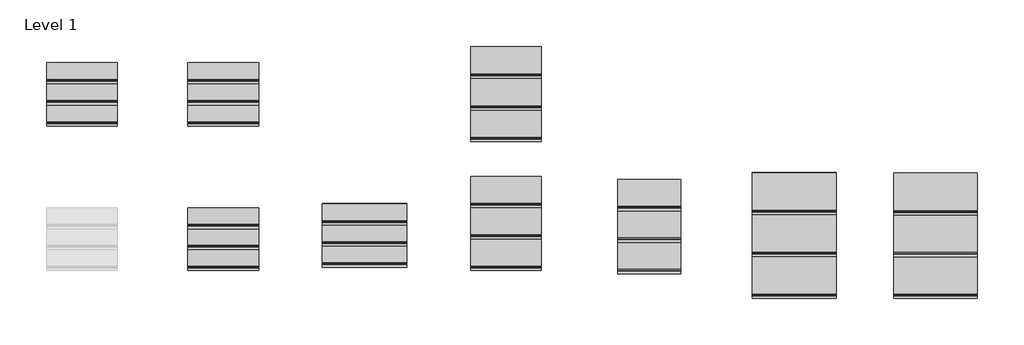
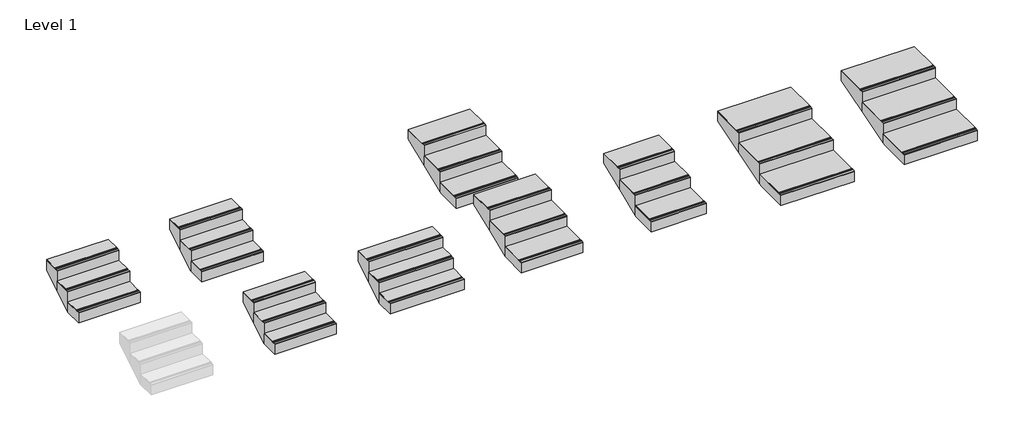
# One storey, part 2 of 2: 9 stair flights.
"""IFC4 building model written with IfcOpenShell, lengths in millimetres."""

import ifcopenshell
import ifcopenshell.guid

model = None  # the IFC model being written
_history = None  # IfcOwnerHistory: only IFC2X3 demands one
_inside = {}  # id of a spatial element -> (the spatial element, [elements in it])
_under = {}  # id of a project, library or spatial element -> (it, [spatial elements below it])
_declared = {}  # id of a project -> (the project, [libraries it declares])
_typed = {}  # id of a type object -> (the type object, [elements of that type])
_made_of = {}  # id of a material, layer set ... -> (it, [elements and type objects made of it])


def new_model(schema):
    """Start an empty IFC model of exactly this schema.

    Asked for "IFC4X3", IfcOpenShell would pick the latest addendum, in which some entities
    have other attributes; the version numbers below select the first issue.
    IFC2X3 requires an IfcOwnerHistory on every rooted entity: one is made here for all.
    """
    global model, _history
    if schema == "IFC4X3":
        model = ifcopenshell.file(schema_version=(4, 3, 0, 0))
    else:
        model = ifcopenshell.file(schema=schema)
    _inside.clear()
    _under.clear()
    _declared.clear()
    _typed.clear()
    _made_of.clear()
    _history = None
    if model.schema == "IFC2X3":
        org = make("IfcOrganization", Name="unknown")
        user = make(
            "IfcPersonAndOrganization",
            ThePerson=make("IfcPerson", FamilyName="unknown"),
            TheOrganization=org,
        )
        app = make(
            "IfcApplication",
            ApplicationDeveloper=org,
            Version="unknown",
            ApplicationFullName="unknown",
            ApplicationIdentifier="unknown",
        )
        _history = make(
            "IfcOwnerHistory",
            OwningUser=user,
            OwningApplication=app,
            ChangeAction="ADDED",
            CreationDate=0,
        )
    return model


def make(cls, **values):
    """One entity of the class cls with the attributes given. An attribute that is None is left unset."""
    return model.create_entity(
        cls, **{name: value for name, value in values.items() if value is not None}
    )


def rooted(cls, **values):
    """An entity with a GlobalId (a new one), such as an element, a storey or a relation."""
    return make(cls, GlobalId=ifcopenshell.guid.new(), OwnerHistory=_history, **values)


def si_unit(unit_type, name, prefix=None):
    """IfcSIUnit, for example si_unit("LENGTHUNIT", "METRE", prefix="MILLI")."""
    return make("IfcSIUnit", UnitType=unit_type, Prefix=prefix, Name=name)


def assignment(units):
    """IfcUnitAssignment: the units of a project."""
    return None if units is None else make("IfcUnitAssignment", Units=units)


def point(xyz):
    """IfcCartesianPoint."""
    return None if xyz is None else make("IfcCartesianPoint", Coordinates=xyz)


def direction(xyz):
    """IfcDirection."""
    return None if xyz is None else make("IfcDirection", DirectionRatios=xyz)


def frame(location, z_axis=None, x_axis=None):
    """IfcAxis2Placement3D, a coordinate frame: its origin and axes. An axis left out is left unset."""
    return make(
        "IfcAxis2Placement3D",
        Location=point(location),
        Axis=direction(z_axis),
        RefDirection=direction(x_axis),
    )


def origin():
    """The frame at (0, 0, 0) with its axes left unset."""
    return frame((0.0, 0.0, 0.0))


def place(relative_to, where):
    """IfcLocalPlacement: puts the frame where relative to a parent placement (None: the world)."""
    return make(
        "IfcLocalPlacement", PlacementRelTo=relative_to, RelativePlacement=where
    )


def context(
    kind, dimensions, precision=None, world=None, true_north=None, identifier=None
):
    """IfcGeometricRepresentationContext, for example the 3D "Model" context."""
    return make(
        "IfcGeometricRepresentationContext",
        ContextIdentifier=identifier,
        ContextType=kind,
        CoordinateSpaceDimension=dimensions,
        Precision=precision,
        WorldCoordinateSystem=world,
        TrueNorth=true_north,
    )


def project(units=None, contexts=None):
    """IfcProject with its units and contexts."""
    return rooted(
        "IfcProject",
        Name="project",
        RepresentationContexts=contexts,
        UnitsInContext=assignment(units),
    )


def spatial(cls, under=None, at=None, **own):
    """A site, building, storey or space (cls), placed at a placement, below another one or the project."""
    s = rooted(cls, ObjectPlacement=at, **own)
    if under is not None:
        _under.setdefault(under.id(), (under, []))[1].append(s)
    return s


def polyline(points):
    """IfcPolyline through the points."""
    return make("IfcPolyline", Points=[point(p) for p in points])


def outline(outer, holes=None, kind="AREA"):
    """IfcArbitraryClosedProfileDef: a profile drawn as a closed curve; with holes, ...WithVoids."""
    if holes is None:
        return make("IfcArbitraryClosedProfileDef", ProfileType=kind, OuterCurve=outer)
    return make(
        "IfcArbitraryProfileDefWithVoids",
        ProfileType=kind,
        OuterCurve=outer,
        InnerCurves=holes,
    )


def extrude(swept, where, along, depth):
    """IfcExtrudedAreaSolid: the profile swept, set in the frame where, extruded along a direction by depth."""
    return make(
        "IfcExtrudedAreaSolid",
        SweptArea=swept,
        Position=where,
        ExtrudedDirection=direction(along),
        Depth=depth,
    )


def faces_of(points, faces, orient=None, outer=None):
    """IfcFace entities. A face is a list of loops; a loop is a list of indices into points, from 0.

    orient and outer hold one flag for each loop. By default every Orientation is true, the
    first loop of a face is its IfcFaceOuterBound and the others are IfcFaceBound.
    """
    made = []
    for i, loops in enumerate(faces):
        bounds = []
        for j, loop in enumerate(loops):
            is_outer = j == 0 if outer is None else outer[i][j]
            bounds.append(
                make(
                    "IfcFaceOuterBound" if is_outer else "IfcFaceBound",
                    Bound=make("IfcPolyLoop", Polygon=[points[k] for k in loop]),
                    Orientation=True if orient is None else orient[i][j],
                )
            )
        made.append(make("IfcFace", Bounds=bounds))
    return made


def faceted_brep(points, faces, orient=None, outer=None, voids=None):
    """IfcFacetedBrep: a solid bounded by flat faces; with voids (closed shells), ...WithVoids."""
    shared = [point(p) for p in points]
    hull = make("IfcClosedShell", CfsFaces=faces_of(shared, faces, orient, outer))
    if voids is None:
        return make("IfcFacetedBrep", Outer=hull)
    return make(
        "IfcFacetedBrepWithVoids",
        Outer=hull,
        Voids=[
            make(cls, CfsFaces=faces_of(shared, fs, o, b)) for cls, fs, o, b in voids
        ],
    )


def shape(context_of_items, identifier, shape_type, items):
    """IfcShapeRepresentation: the items that make up one representation, for example the "Body"."""
    return make(
        "IfcShapeRepresentation",
        ContextOfItems=context_of_items,
        RepresentationIdentifier=identifier,
        RepresentationType=shape_type,
        Items=items,
    )


def made_of(thing, what):
    """Note that an element or type object is made of a material, layer set ...; save() writes the relation."""
    if what is not None:
        _made_of.setdefault(what.id(), (what, []))[1].append(thing)
    return thing


def element(
    cls,
    number,
    at=None,
    inside=None,
    cuts=None,
    type_object=None,
    material=None,
    context=None,
    identifier="Body",
    shape_type=None,
    held_by="IfcProductDefinitionShape",
    body=None,
    shapes=None,
    **own,
):
    """One element of the class cls, such as IfcWall. Its Tag is "e" and its number.

    at: its placement. inside: the storey or other place that contains it. cuts: it is an
    opening in that element (IfcRelVoidsElement). A single representation is given by context,
    identifier, shape_type and body (its items); several are given by shapes. held_by: the class
    of the entity that holds the representations. save() writes the other relations.
    """
    e = rooted(cls, Tag="e%d" % number, ObjectPlacement=at, **own)
    if body is not None:
        shapes = [shape(context, identifier, shape_type, body)]
    if shapes is not None:
        e.Representation = make(held_by, Representations=shapes)
    if inside is not None:
        _inside.setdefault(inside.id(), (inside, []))[1].append(e)
    if cuts is not None:
        rooted(
            "IfcRelVoidsElement", RelatingBuildingElement=cuts, RelatedOpeningElement=e
        )
    if type_object is not None:
        _typed.setdefault(type_object.id(), (type_object, []))[1].append(e)
    return made_of(e, material)


def aggregate(whole, parts):
    """IfcRelAggregates: a whole, such as a stair, and the parts it consists of."""
    return rooted("IfcRelAggregates", RelatingObject=whole, RelatedObjects=parts)


def save(model, path):
    """Write the relations noted so far, then the file.

    IfcRelAggregates (storeys below a building ...), IfcRelContainedInSpatialStructure (elements
    in a storey), IfcRelDefinesByType, IfcRelAssociatesMaterial and IfcRelDeclares: one each for
    every whole, place, type object, material and project.
    """
    for whole, parts in _under.values():
        aggregate(whole, parts)
    for where, things in _inside.values():
        rooted(
            "IfcRelContainedInSpatialStructure",
            RelatedElements=things,
            RelatingStructure=where,
        )
    for kind, things in _typed.values():
        rooted("IfcRelDefinesByType", RelatedObjects=things, RelatingType=kind)
    for what, things in _made_of.values():
        rooted("IfcRelAssociatesMaterial", RelatedObjects=things, RelatingMaterial=what)
    for by, libraries in _declared.values():
        rooted("IfcRelDeclares", RelatingContext=by, RelatedDefinitions=libraries)
    model.write(path)


model = new_model("IFC4")

# Units and contexts
model_context = context("Model", 3, world=origin())
ifc_project = project(units=[si_unit("LENGTHUNIT", "METRE", prefix="MILLI")], contexts=[model_context])

# Site, building, storey
site = spatial("IfcSite", under=ifc_project)
building = spatial("IfcBuilding", under=site)
storey = spatial("IfcBuildingStorey", under=building, Name="Level 1", Elevation=0.0)

# Stair flights
placement = place(None, origin())
element("IfcStairFlight", 1, ObjectType="REVIGRES-URBAN-DG-NAT-30X30", at=placement, inside=storey, context=model_context, shape_type="SolidModel", body=[
    faceted_brep([(30953.6111771, 2251.8696097, 169.4941176), (30953.6111771, 1951.8696097, 169.4941176), (31953.6111771, 1951.8696097, 169.4941176), (31953.6111771, 2251.8696097, 169.4941176), (30953.6111771, 2251.8696097, 0.0), (30953.6111771, 1951.8696097, 0.0), (31953.6111771, 1951.8696097, 0.0), (31953.6111771, 2251.8696097, 0.0), (30953.6111771, 2551.8696097, 348.7882353), (30953.6111771, 2251.8696097, 348.7882353), (31953.6111771, 2251.8696097, 348.7882353), (31953.6111771, 2551.8696097, 348.7882353), (30953.6111771, 2551.8696097, 174.0410031), (30953.6111771, 2260.6592698, 0.0), (31953.6111771, 2260.6592698, 0.0), (31953.6111771, 2551.8696097, 174.0410031), (30953.6111771, 2851.8696097, 528.0823529), (30953.6111771, 2551.8696097, 528.0823529), (31953.6111771, 2551.8696097, 528.0823529), (31953.6111771, 2851.8696097, 528.0823529), (30953.6111771, 2851.8696097, 353.3351208), (31953.6111771, 2851.8696097, 353.3351208)], [[[0, 1, 2, 3]], [[1, 0, 4, 5]], [[2, 1, 5, 6]], [[3, 2, 6, 7]], [[8, 9, 10, 11]], [[4, 0, 9, 8, 12, 13]], [[0, 3, 10, 9]], [[3, 7, 14, 15, 11, 10]], [[16, 17, 18, 19]], [[17, 16, 20, 12, 8]], [[8, 11, 18, 17]], [[19, 18, 11, 15, 21]], [[16, 19, 21, 20]], [[5, 4, 13, 14, 7, 6]], [[14, 13, 12, 20, 21, 15]]]),
    extrude(outline(polyline([(1981.8696097, 179.2941176), (1981.8696097, 178.2941176), (1986.8696097, 178.2941176), (1986.8696097, 179.2941176), (1996.8696097, 179.2941176), (1996.8696097, 178.2941176), (2001.8696097, 178.2941176), (2001.8696097, 179.2941176), (2011.8696097, 179.2941176), (2011.8696097, 178.2941176), (2016.8696097, 178.2941176), (2016.8696097, 179.2941176), (2251.8696097, 179.2941176), (2251.8696097, 171.5941176), (1951.8696097, 171.5941176), (1951.8696097, 179.2941176), (1981.8696097, 179.2941176)])), frame((30953.6111771, 0.0, 0.0), z_axis=(1.0, 0.0, 0.0), x_axis=(0.0, 1.0, 0.0)), (0.0, 0.0, 1.0), 1000.0),
    extrude(outline(polyline([(2281.8696097, 358.5882353), (2281.8696097, 357.5882353), (2286.8696097, 357.5882353), (2286.8696097, 358.5882353), (2296.8696097, 358.5882353), (2296.8696097, 357.5882353), (2301.8696097, 357.5882353), (2301.8696097, 358.5882353), (2311.8696097, 358.5882353), (2311.8696097, 357.5882353), (2316.8696097, 357.5882353), (2316.8696097, 358.5882353), (2551.8696097, 358.5882353), (2551.8696097, 350.8882353), (2251.8696097, 350.8882353), (2251.8696097, 358.5882353), (2281.8696097, 358.5882353)])), frame((30953.6111771, 0.0, 0.0), z_axis=(1.0, 0.0, 0.0), x_axis=(0.0, 1.0, 0.0)), (0.0, 0.0, 1.0), 1000.0),
    extrude(outline(polyline([(2581.8696097, 537.8823529), (2581.8696097, 536.8823529), (2586.8696097, 536.8823529), (2586.8696097, 537.8823529), (2596.8696097, 537.8823529), (2596.8696097, 536.8823529), (2601.8696097, 536.8823529), (2601.8696097, 537.8823529), (2611.8696097, 537.8823529), (2611.8696097, 536.8823529), (2616.8696097, 536.8823529), (2616.8696097, 537.8823529), (2851.8696097, 537.8823529), (2851.8696097, 530.1823529), (2551.8696097, 530.1823529), (2551.8696097, 537.8823529), (2581.8696097, 537.8823529)])), frame((30953.6111771, 0.0, 0.0), z_axis=(1.0, 0.0, 0.0), x_axis=(0.0, 1.0, 0.0)), (0.0, 0.0, 1.0), 1000.0),
])
element("IfcStairFlight", 2, ObjectType="REVIGRES-URBAN-DG-NAT-30X60", at=placement, inside=storey, context=model_context, shape_type="SolidModel", body=[
    faceted_brep([(32953.6111771, 2251.8696097, 169.4941176), (32953.6111771, 1951.8696097, 169.4941176), (33953.6111771, 1951.8696097, 169.4941176), (33953.6111771, 2251.8696097, 169.4941176), (32953.6111771, 2251.8696097, 0.0), (32953.6111771, 1951.8696097, 0.0), (33953.6111771, 1951.8696097, 0.0), (33953.6111771, 2251.8696097, 0.0), (32953.6111771, 2551.8696097, 348.7882353), (32953.6111771, 2251.8696097, 348.7882353), (33953.6111771, 2251.8696097, 348.7882353), (33953.6111771, 2551.8696097, 348.7882353), (32953.6111771, 2551.8696097, 174.0410031), (32953.6111771, 2260.6592698, 0.0), (33953.6111771, 2260.6592698, 0.0), (33953.6111771, 2551.8696097, 174.0410031), (32953.6111771, 2851.8696097, 528.0823529), (32953.6111771, 2551.8696097, 528.0823529), (33953.6111771, 2551.8696097, 528.0823529), (33953.6111771, 2851.8696097, 528.0823529), (32953.6111771, 2851.8696097, 353.3351208), (33953.6111771, 2851.8696097, 353.3351208)], [[[0, 1, 2, 3]], [[1, 0, 4, 5]], [[2, 1, 5, 6]], [[3, 2, 6, 7]], [[8, 9, 10, 11]], [[4, 0, 9, 8, 12, 13]], [[0, 3, 10, 9]], [[3, 7, 14, 15, 11, 10]], [[16, 17, 18, 19]], [[17, 16, 20, 12, 8]], [[8, 11, 18, 17]], [[19, 18, 11, 15, 21]], [[16, 19, 21, 20]], [[5, 4, 13, 14, 7, 6]], [[14, 13, 12, 20, 21, 15]]]),
    extrude(outline(polyline([(1981.8696097, 179.2941176), (1981.8696097, 178.2941176), (1986.8696097, 178.2941176), (1986.8696097, 179.2941176), (1996.8696097, 179.2941176), (1996.8696097, 178.2941176), (2001.8696097, 178.2941176), (2001.8696097, 179.2941176), (2011.8696097, 179.2941176), (2011.8696097, 178.2941176), (2016.8696097, 178.2941176), (2016.8696097, 179.2941176), (2251.8696097, 179.2941176), (2251.8696097, 170.7941176), (1951.8696097, 170.7941176), (1951.8696097, 179.2941176), (1981.8696097, 179.2941176)])), frame((32953.6111771, 0.0, 0.0), z_axis=(1.0, 0.0, 0.0), x_axis=(0.0, 1.0, 0.0)), (0.0, 0.0, 1.0), 1000.0),
    extrude(outline(polyline([(2281.8696097, 358.5882353), (2281.8696097, 357.5882353), (2286.8696097, 357.5882353), (2286.8696097, 358.5882353), (2296.8696097, 358.5882353), (2296.8696097, 357.5882353), (2301.8696097, 357.5882353), (2301.8696097, 358.5882353), (2311.8696097, 358.5882353), (2311.8696097, 357.5882353), (2316.8696097, 357.5882353), (2316.8696097, 358.5882353), (2551.8696097, 358.5882353), (2551.8696097, 350.0882353), (2251.8696097, 350.0882353), (2251.8696097, 358.5882353), (2281.8696097, 358.5882353)])), frame((32953.6111771, 0.0, 0.0), z_axis=(1.0, 0.0, 0.0), x_axis=(0.0, 1.0, 0.0)), (0.0, 0.0, 1.0), 1000.0),
    extrude(outline(polyline([(2581.8696097, 537.8823529), (2581.8696097, 536.8823529), (2586.8696097, 536.8823529), (2586.8696097, 537.8823529), (2596.8696097, 537.8823529), (2596.8696097, 536.8823529), (2601.8696097, 536.8823529), (2601.8696097, 537.8823529), (2611.8696097, 537.8823529), (2611.8696097, 536.8823529), (2616.8696097, 536.8823529), (2616.8696097, 537.8823529), (2851.8696097, 537.8823529), (2851.8696097, 529.3823529), (2551.8696097, 529.3823529), (2551.8696097, 537.8823529), (2581.8696097, 537.8823529)])), frame((32953.6111771, 0.0, 0.0), z_axis=(1.0, 0.0, 0.0), x_axis=(0.0, 1.0, 0.0)), (0.0, 0.0, 1.0), 1000.0),
])
element("IfcStairFlight", 3, ObjectType="REVIGRES-URBAN-DG-RECT-30X60", at=placement, inside=storey, context=model_context, shape_type="SolidModel", body=[
    faceted_brep([(32953.6111771, 201.6754564, 169.4941176), (32953.6111771, -93.3245436, 169.4941176), (33953.6111771, -93.3245436, 169.4941176), (33953.6111771, 201.6754564, 169.4941176), (32953.6111771, 201.6754564, 0.0), (32953.6111771, -93.3245436, 0.0), (33953.6111771, -93.3245436, 0.0), (33953.6111771, 201.6754564, 0.0), (32953.6111771, 496.6754564, 348.7882353), (32953.6111771, 201.6754564, 348.7882353), (33953.6111771, 201.6754564, 348.7882353), (33953.6111771, 496.6754564, 348.7882353), (32953.6111771, 496.6754564, 173.2566689), (32953.6111771, 211.6091197, 0.0), (33953.6111771, 211.6091197, 0.0), (33953.6111771, 496.6754564, 173.2566689), (32953.6111771, 791.6754564, 528.0823529), (32953.6111771, 496.6754564, 528.0823529), (33953.6111771, 496.6754564, 528.0823529), (33953.6111771, 791.6754564, 528.0823529), (32953.6111771, 791.6754564, 352.5507865), (33953.6111771, 791.6754564, 352.5507865)], [[[0, 1, 2, 3]], [[1, 0, 4, 5]], [[2, 1, 5, 6]], [[3, 2, 6, 7]], [[8, 9, 10, 11]], [[4, 0, 9, 8, 12, 13]], [[0, 3, 10, 9]], [[3, 7, 14, 15, 11, 10]], [[16, 17, 18, 19]], [[17, 16, 20, 12, 8]], [[8, 11, 18, 17]], [[19, 18, 11, 15, 21]], [[16, 19, 21, 20]], [[5, 4, 13, 14, 7, 6]], [[14, 13, 12, 20, 21, 15]]]),
    extrude(outline(polyline([(-63.3245436, 179.2941176), (-63.3245436, 178.2941176), (-58.3245436, 178.2941176), (-58.3245436, 179.2941176), (-48.3245436, 179.2941176), (-48.3245436, 178.2941176), (-43.3245436, 178.2941176), (-43.3245436, 179.2941176), (-33.3245436, 179.2941176), (-33.3245436, 178.2941176), (-28.3245436, 178.2941176), (-28.3245436, 179.2941176), (201.6754564, 179.2941176), (201.6754564, 170.7941176), (-93.3245436, 170.7941176), (-93.3245436, 179.2941176), (-63.3245436, 179.2941176)])), frame((32953.6111771, 0.0, 0.0), z_axis=(1.0, 0.0, 0.0), x_axis=(0.0, 1.0, 0.0)), (0.0, 0.0, 1.0), 1000.0),
    extrude(outline(polyline([(231.6754564, 358.5882353), (231.6754564, 357.5882353), (236.6754564, 357.5882353), (236.6754564, 358.5882353), (246.6754564, 358.5882353), (246.6754564, 357.5882353), (251.6754564, 357.5882353), (251.6754564, 358.5882353), (261.6754564, 358.5882353), (261.6754564, 357.5882353), (266.6754564, 357.5882353), (266.6754564, 358.5882353), (496.6754564, 358.5882353), (496.6754564, 350.0882353), (201.6754564, 350.0882353), (201.6754564, 358.5882353), (231.6754564, 358.5882353)])), frame((32953.6111771, 0.0, 0.0), z_axis=(1.0, 0.0, 0.0), x_axis=(0.0, 1.0, 0.0)), (0.0, 0.0, 1.0), 1000.0),
    extrude(outline(polyline([(526.6754564, 537.8823529), (526.6754564, 536.8823529), (531.6754564, 536.8823529), (531.6754564, 537.8823529), (541.6754564, 537.8823529), (541.6754564, 536.8823529), (546.6754564, 536.8823529), (546.6754564, 537.8823529), (556.6754564, 537.8823529), (556.6754564, 536.8823529), (561.6754564, 536.8823529), (561.6754564, 537.8823529), (791.6754564, 537.8823529), (791.6754564, 529.3823529), (496.6754564, 529.3823529), (496.6754564, 537.8823529), (526.6754564, 537.8823529)])), frame((32953.6111771, 0.0, 0.0), z_axis=(1.0, 0.0, 0.0), x_axis=(0.0, 1.0, 0.0)), (0.0, 0.0, 1.0), 1000.0),
])
element("IfcStairFlight", 4, ObjectType="REVIGRES-URBAN-DG-NAT-30X120", at=placement, inside=storey, context=model_context, shape_type="SolidModel", body=[
    faceted_brep([(34853.6111771, 251.8696097, 169.4941176), (34853.6111771, -48.1303903, 169.4941176), (36053.6111771, -48.1303903, 169.4941176), (36053.6111771, 251.8696097, 169.4941176), (34853.6111771, 251.8696097, 0.0), (34853.6111771, -48.1303903, 0.0), (36053.6111771, -48.1303903, 0.0), (36053.6111771, 251.8696097, 0.0), (34853.6111771, 551.8696097, 348.7882353), (34853.6111771, 251.8696097, 348.7882353), (36053.6111771, 251.8696097, 348.7882353), (36053.6111771, 551.8696097, 348.7882353), (34853.6111771, 551.8696097, 174.0410031), (34853.6111771, 260.6592698, 0.0), (36053.6111771, 260.6592698, 0.0), (36053.6111771, 551.8696097, 174.0410031), (34853.6111771, 851.8696097, 528.0823529), (34853.6111771, 551.8696097, 528.0823529), (36053.6111771, 551.8696097, 528.0823529), (36053.6111771, 851.8696097, 528.0823529), (34853.6111771, 851.8696097, 353.3351208), (36053.6111771, 851.8696097, 353.3351208)], [[[0, 1, 2, 3]], [[1, 0, 4, 5]], [[2, 1, 5, 6]], [[3, 2, 6, 7]], [[8, 9, 10, 11]], [[4, 0, 9, 8, 12, 13]], [[0, 3, 10, 9]], [[3, 7, 14, 15, 11, 10]], [[16, 17, 18, 19]], [[17, 16, 20, 12, 8]], [[8, 11, 18, 17]], [[19, 18, 11, 15, 21]], [[16, 19, 21, 20]], [[5, 4, 13, 14, 7, 6]], [[14, 13, 12, 20, 21, 15]]]),
    extrude(outline(polyline([(-18.1303903, 179.2941176), (-18.1303903, 178.2941176), (-13.1303903, 178.2941176), (-13.1303903, 179.2941176), (-3.1303903, 179.2941176), (-3.1303903, 178.2941176), (1.8696097, 178.2941176), (1.8696097, 179.2941176), (11.8696097, 179.2941176), (11.8696097, 178.2941176), (16.8696097, 178.2941176), (16.8696097, 179.2941176), (246.8696097, 179.2941176), (246.8696097, 169.4941176), (-48.1303903, 169.4941176), (-48.1303903, 179.2941176), (-18.1303903, 179.2941176)])), frame((34853.6111771, 0.0, 0.0), z_axis=(1.0, 0.0, 0.0), x_axis=(0.0, 1.0, 0.0)), (0.0, 0.0, 1.0), 1200.0),
    extrude(outline(polyline([(281.8696097, 358.5882353), (281.8696097, 357.5882353), (286.8696097, 357.5882353), (286.8696097, 358.5882353), (296.8696097, 358.5882353), (296.8696097, 357.5882353), (301.8696097, 357.5882353), (301.8696097, 358.5882353), (311.8696097, 358.5882353), (311.8696097, 357.5882353), (316.8696097, 357.5882353), (316.8696097, 358.5882353), (546.8696097, 358.5882353), (546.8696097, 348.7882353), (251.8696097, 348.7882353), (251.8696097, 358.5882353), (281.8696097, 358.5882353)])), frame((34853.6111771, 0.0, 0.0), z_axis=(1.0, 0.0, 0.0), x_axis=(0.0, 1.0, 0.0)), (0.0, 0.0, 1.0), 1200.0),
    extrude(outline(polyline([(581.8696097, 537.8823529), (581.8696097, 536.8823529), (586.8696097, 536.8823529), (586.8696097, 537.8823529), (596.8696097, 537.8823529), (596.8696097, 536.8823529), (601.8696097, 536.8823529), (601.8696097, 537.8823529), (611.8696097, 537.8823529), (611.8696097, 536.8823529), (616.8696097, 536.8823529), (616.8696097, 537.8823529), (846.8696097, 537.8823529), (846.8696097, 528.0823529), (551.8696097, 528.0823529), (551.8696097, 537.8823529), (581.8696097, 537.8823529)])), frame((34853.6111771, 0.0, 0.0), z_axis=(1.0, 0.0, 0.0), x_axis=(0.0, 1.0, 0.0)), (0.0, 0.0, 1.0), 1200.0),
])
element("IfcStairFlight", 5, ObjectType="REVIGRES-URBAN-DG-NAT-45X45", at=placement, inside=storey, context=model_context, shape_type="SolidModel", body=[
    faceted_brep([(36953.6111771, 2179.1198823, 170.7941176), (36953.6111771, 1729.1198823, 170.7941176), (37953.6111771, 1729.1198823, 170.7941176), (37953.6111771, 2179.1198823, 170.7941176), (36953.6111771, 2179.1198823, 9.3264117), (36953.6111771, 2155.7120577, 0.0), (36953.6111771, 1729.1198823, 0.0), (37953.6111771, 1729.1198823, 0.0), (37953.6111771, 2155.7120577, 0.0), (37953.6111771, 2179.1198823, 9.3264117), (36953.6111771, 2629.1198823, 350.0882353), (36953.6111771, 2179.1198823, 350.0882353), (37953.6111771, 2179.1198823, 350.0882353), (37953.6111771, 2629.1198823, 350.0882353), (36953.6111771, 2629.1198823, 188.6205293), (37953.6111771, 2629.1198823, 188.6205293), (36953.6111771, 3079.1198823, 529.3823529), (36953.6111771, 2629.1198823, 529.3823529), (37953.6111771, 2629.1198823, 529.3823529), (37953.6111771, 3079.1198823, 529.3823529), (36953.6111771, 3079.1198823, 367.914647), (37953.6111771, 3079.1198823, 367.914647)], [[[0, 1, 2, 3]], [[1, 0, 4, 5, 6]], [[2, 1, 6, 7]], [[3, 2, 7, 8, 9]], [[10, 11, 12, 13]], [[11, 10, 14, 4, 0]], [[0, 3, 12, 11]], [[13, 12, 3, 9, 15]], [[16, 17, 18, 19]], [[17, 16, 20, 14, 10]], [[10, 13, 18, 17]], [[19, 18, 13, 15, 21]], [[16, 19, 21, 20]], [[7, 6, 5, 8]], [[8, 5, 4, 14, 20, 21, 15, 9]]]),
    extrude(outline(polyline([(1759.1198823, 179.2941176), (1759.1198823, 178.2941176), (1764.1198823, 178.2941176), (1764.1198823, 179.2941176), (1774.1198823, 179.2941176), (1774.1198823, 178.2941176), (1779.1198823, 178.2941176), (1779.1198823, 179.2941176), (1789.1198823, 179.2941176), (1789.1198823, 178.2941176), (1794.1198823, 178.2941176), (1794.1198823, 179.2941176), (2179.1198823, 179.2941176), (2179.1198823, 170.7941176), (1729.1198823, 170.7941176), (1729.1198823, 179.2941176), (1759.1198823, 179.2941176)])), frame((36953.6111771, 0.0, 0.0), z_axis=(1.0, 0.0, 0.0), x_axis=(0.0, 1.0, 0.0)), (0.0, 0.0, 1.0), 1000.0),
    extrude(outline(polyline([(2209.1198823, 358.5882353), (2209.1198823, 357.5882353), (2214.1198823, 357.5882353), (2214.1198823, 358.5882353), (2224.1198823, 358.5882353), (2224.1198823, 357.5882353), (2229.1198823, 357.5882353), (2229.1198823, 358.5882353), (2239.1198823, 358.5882353), (2239.1198823, 357.5882353), (2244.1198823, 357.5882353), (2244.1198823, 358.5882353), (2629.1198823, 358.5882353), (2629.1198823, 350.0882353), (2179.1198823, 350.0882353), (2179.1198823, 358.5882353), (2209.1198823, 358.5882353)])), frame((36953.6111771, 0.0, 0.0), z_axis=(1.0, 0.0, 0.0), x_axis=(0.0, 1.0, 0.0)), (0.0, 0.0, 1.0), 1000.0),
    extrude(outline(polyline([(2659.1198823, 537.8823529), (2659.1198823, 536.8823529), (2664.1198823, 536.8823529), (2664.1198823, 537.8823529), (2674.1198823, 537.8823529), (2674.1198823, 536.8823529), (2679.1198823, 536.8823529), (2679.1198823, 537.8823529), (2689.1198823, 537.8823529), (2689.1198823, 536.8823529), (2694.1198823, 536.8823529), (2694.1198823, 537.8823529), (3079.1198823, 537.8823529), (3079.1198823, 529.3823529), (2629.1198823, 529.3823529), (2629.1198823, 537.8823529), (2659.1198823, 537.8823529)])), frame((36953.6111771, 0.0, 0.0), z_axis=(1.0, 0.0, 0.0), x_axis=(0.0, 1.0, 0.0)), (0.0, 0.0, 1.0), 1000.0),
])
element("IfcStairFlight", 6, ObjectType="REVIGRES-URBAN-DG-RECT-45X45", at=placement, inside=storey, context=model_context, shape_type="SolidModel", body=[
    faceted_brep([(36953.6111771, 350.6754564, 169.4941176), (36953.6111771, -93.3245436, 169.4941176), (37953.6111771, -93.3245436, 169.4941176), (37953.6111771, 350.6754564, 169.4941176), (36953.6111771, 350.6754564, 7.72574), (36953.6111771, 331.5436042, 0.0), (36953.6111771, -93.3245436, 0.0), (37953.6111771, -93.3245436, 0.0), (37953.6111771, 331.5436042, 0.0), (37953.6111771, 350.6754564, 7.72574), (36953.6111771, 794.6754564, 348.7882353), (36953.6111771, 350.6754564, 348.7882353), (37953.6111771, 350.6754564, 348.7882353), (37953.6111771, 794.6754564, 348.7882353), (36953.6111771, 794.6754564, 187.0198576), (37953.6111771, 794.6754564, 187.0198576), (36953.6111771, 1238.6754564, 528.0823529), (36953.6111771, 794.6754564, 528.0823529), (37953.6111771, 794.6754564, 528.0823529), (37953.6111771, 1238.6754564, 528.0823529), (36953.6111771, 1238.6754564, 366.3139753), (37953.6111771, 1238.6754564, 366.3139753)], [[[0, 1, 2, 3]], [[1, 0, 4, 5, 6]], [[2, 1, 6, 7]], [[3, 2, 7, 8, 9]], [[10, 11, 12, 13]], [[11, 10, 14, 4, 0]], [[0, 3, 12, 11]], [[13, 12, 3, 9, 15]], [[16, 17, 18, 19]], [[17, 16, 20, 14, 10]], [[10, 13, 18, 17]], [[19, 18, 13, 15, 21]], [[16, 19, 21, 20]], [[7, 6, 5, 8]], [[8, 5, 4, 14, 20, 21, 15, 9]]]),
    extrude(outline(polyline([(-63.3245436, 179.2941176), (-63.3245436, 178.2941176), (-58.3245436, 178.2941176), (-58.3245436, 179.2941176), (-48.3245436, 179.2941176), (-48.3245436, 178.2941176), (-43.3245436, 178.2941176), (-43.3245436, 179.2941176), (-33.3245436, 179.2941176), (-33.3245436, 178.2941176), (-28.3245436, 178.2941176), (-28.3245436, 179.2941176), (350.1754564, 179.2941176), (350.1754564, 170.7941176), (-93.3245436, 170.7941176), (-93.3245436, 179.2941176), (-63.3245436, 179.2941176)])), frame((36953.6111771, 0.0, 0.0), z_axis=(1.0, 0.0, 0.0), x_axis=(0.0, 1.0, 0.0)), (0.0, 0.0, 1.0), 1000.0),
    extrude(outline(polyline([(380.6754564, 358.5882353), (380.6754564, 357.5882353), (385.6754564, 357.5882353), (385.6754564, 358.5882353), (395.6754564, 358.5882353), (395.6754564, 357.5882353), (400.6754564, 357.5882353), (400.6754564, 358.5882353), (410.6754564, 358.5882353), (410.6754564, 357.5882353), (415.6754564, 357.5882353), (415.6754564, 358.5882353), (794.1754564, 358.5882353), (794.1754564, 350.0882353), (350.6754564, 350.0882353), (350.6754564, 358.5882353), (380.6754564, 358.5882353)])), frame((36953.6111771, 0.0, 0.0), z_axis=(1.0, 0.0, 0.0), x_axis=(0.0, 1.0, 0.0)), (0.0, 0.0, 1.0), 1000.0),
    extrude(outline(polyline([(824.6754564, 537.8823529), (824.6754564, 536.8823529), (829.6754564, 536.8823529), (829.6754564, 537.8823529), (839.6754564, 537.8823529), (839.6754564, 536.8823529), (844.6754564, 536.8823529), (844.6754564, 537.8823529), (854.6754564, 537.8823529), (854.6754564, 536.8823529), (859.6754564, 536.8823529), (859.6754564, 537.8823529), (1238.1754564, 537.8823529), (1238.1754564, 529.3823529), (794.6754564, 529.3823529), (794.6754564, 537.8823529), (824.6754564, 537.8823529)])), frame((36953.6111771, 0.0, 0.0), z_axis=(1.0, 0.0, 0.0), x_axis=(0.0, 1.0, 0.0)), (0.0, 0.0, 1.0), 1000.0),
])
element("IfcStairFlight", 7, ObjectType="REVIGRES-URBAN-DG-NAT-45X90", at=placement, inside=storey, context=model_context, shape_type="SolidModel", body=[
    faceted_brep([(39038.8067467, 305.3819072, 170.7941176), (39038.8067467, -140.6180928, 170.7941176), (39929.8067467, -140.6180928, 170.7941176), (39929.8067467, 305.3819072, 170.7941176), (39038.8067467, 305.3819072, 9.1272506), (39038.8067467, 282.6775718, 0.0), (39038.8067467, -140.6180928, 0.0), (39929.8067467, -140.6180928, 0.0), (39929.8067467, 282.6775718, 0.0), (39929.8067467, 305.3819072, 9.1272506), (39038.8067467, 751.3819072, 350.0882353), (39038.8067467, 305.3819072, 350.0882353), (39929.8067467, 305.3819072, 350.0882353), (39929.8067467, 751.3819072, 350.0882353), (39038.8067467, 751.3819072, 188.4213683), (39929.8067467, 751.3819072, 188.4213683), (39038.8067467, 1197.3819072, 529.3823529), (39038.8067467, 751.3819072, 529.3823529), (39929.8067467, 751.3819072, 529.3823529), (39929.8067467, 1197.3819072, 529.3823529), (39038.8067467, 1197.3819072, 367.7154859), (39929.8067467, 1197.3819072, 367.7154859)], [[[0, 1, 2, 3]], [[1, 0, 4, 5, 6]], [[2, 1, 6, 7]], [[3, 2, 7, 8, 9]], [[10, 11, 12, 13]], [[11, 10, 14, 4, 0]], [[0, 3, 12, 11]], [[13, 12, 3, 9, 15]], [[16, 17, 18, 19]], [[17, 16, 20, 14, 10]], [[10, 13, 18, 17]], [[19, 18, 13, 15, 21]], [[16, 19, 21, 20]], [[7, 6, 5, 8]], [[8, 5, 4, 14, 20, 21, 15, 9]]]),
    extrude(outline(polyline([(-110.6180928, 179.2941176), (-110.6180928, 178.2941176), (-105.6180928, 178.2941176), (-105.6180928, 179.2941176), (-95.6180928, 179.2941176), (-95.6180928, 178.2941176), (-90.6180928, 178.2941176), (-90.6180928, 179.2941176), (-80.6180928, 179.2941176), (-80.6180928, 178.2941176), (-75.6180928, 178.2941176), (-75.6180928, 179.2941176), (302.8819072, 179.2941176), (302.8819072, 168.7941176), (-140.6180928, 168.7941176), (-140.6180928, 179.2941176), (-110.6180928, 179.2941176)])), frame((39038.8067467, 0.0, 0.0), z_axis=(1.0, 0.0, 0.0), x_axis=(0.0, 1.0, 0.0)), (0.0, 0.0, 1.0), 891.0),
    extrude(outline(polyline([(335.3819072, 358.5882353), (335.3819072, 357.5882353), (340.3819072, 357.5882353), (340.3819072, 358.5882353), (350.3819072, 358.5882353), (350.3819072, 357.5882353), (355.3819072, 357.5882353), (355.3819072, 358.5882353), (365.3819072, 358.5882353), (365.3819072, 357.5882353), (370.3819072, 357.5882353), (370.3819072, 358.5882353), (748.8819072, 358.5882353), (748.8819072, 348.0882353), (305.3819072, 348.0882353), (305.3819072, 358.5882353), (335.3819072, 358.5882353)])), frame((39038.8067467, 0.0, 0.0), z_axis=(1.0, 0.0, 0.0), x_axis=(0.0, 1.0, 0.0)), (0.0, 0.0, 1.0), 891.0),
    extrude(outline(polyline([(781.3819072, 537.8823529), (781.3819072, 536.8823529), (786.3819072, 536.8823529), (786.3819072, 537.8823529), (796.3819072, 537.8823529), (796.3819072, 536.8823529), (801.3819072, 536.8823529), (801.3819072, 537.8823529), (811.3819072, 537.8823529), (811.3819072, 536.8823529), (816.3819072, 536.8823529), (816.3819072, 537.8823529), (1194.8819072, 537.8823529), (1194.8819072, 527.3823529), (751.3819072, 527.3823529), (751.3819072, 537.8823529), (781.3819072, 537.8823529)])), frame((39038.8067467, 0.0, 0.0), z_axis=(1.0, 0.0, 0.0), x_axis=(0.0, 1.0, 0.0)), (0.0, 0.0, 1.0), 891.0),
])
element("IfcStairFlight", 8, ObjectType="REVIGRES-URBAN-DG-60X60-NAT", at=placement, inside=storey, context=model_context, shape_type="SolidModel", body=[
    faceted_brep([(40939.6111771, 102.0077019, 168.7941176), (40939.6111771, -491.9922981, 168.7941176), (42127.6111771, -491.9922981, 168.7941176), (42127.6111771, 102.0077019, 168.7941176), (40939.6111771, 102.0077019, 12.1099045), (40939.6111771, 61.8876836, 0.0), (40939.6111771, -491.9922981, 0.0), (42127.6111771, -491.9922981, 0.0), (42127.6111771, 61.8876836, 0.0), (42127.6111771, 102.0077019, 12.1099045), (40939.6111771, 696.0077019, 348.0882353), (40939.6111771, 102.0077019, 348.0882353), (42127.6111771, 102.0077019, 348.0882353), (42127.6111771, 696.0077019, 348.0882353), (40939.6111771, 696.0077019, 191.4040222), (42127.6111771, 696.0077019, 191.4040222), (40939.6111771, 1290.0077019, 527.3823529), (40939.6111771, 696.0077019, 527.3823529), (42127.6111771, 696.0077019, 527.3823529), (42127.6111771, 1290.0077019, 527.3823529), (40939.6111771, 1290.0077019, 370.6981398), (42127.6111771, 1290.0077019, 370.6981398)], [[[0, 1, 2, 3]], [[1, 0, 4, 5, 6]], [[2, 1, 6, 7]], [[3, 2, 7, 8, 9]], [[10, 11, 12, 13]], [[11, 10, 14, 4, 0]], [[0, 3, 12, 11]], [[13, 12, 3, 9, 15]], [[16, 17, 18, 19]], [[17, 16, 20, 14, 10]], [[10, 13, 18, 17]], [[19, 18, 13, 15, 21]], [[16, 19, 21, 20]], [[7, 6, 5, 8]], [[8, 5, 4, 14, 20, 21, 15, 9]]]),
    extrude(outline(polyline([(-461.9922981, 179.2941176), (-461.9922981, 178.2941176), (-456.9922981, 178.2941176), (-456.9922981, 179.2941176), (-446.9922981, 179.2941176), (-446.9922981, 178.2941176), (-441.9922981, 178.2941176), (-441.9922981, 179.2941176), (-431.9922981, 179.2941176), (-431.9922981, 178.2941176), (-426.9922981, 178.2941176), (-426.9922981, 179.2941176), (100.0077019, 179.2941176), (100.0077019, 168.7941176), (-491.9922981, 168.7941176), (-491.9922981, 179.2941176), (-461.9922981, 179.2941176)])), frame((40939.6111771, 0.0, 0.0), z_axis=(1.0, 0.0, 0.0), x_axis=(0.0, 1.0, 0.0)), (0.0, 0.0, 1.0), 1188.0),
    extrude(outline(polyline([(132.0077019, 358.5882353), (132.0077019, 357.5882353), (137.0077019, 357.5882353), (137.0077019, 358.5882353), (147.0077019, 358.5882353), (147.0077019, 357.5882353), (152.0077019, 357.5882353), (152.0077019, 358.5882353), (162.0077019, 358.5882353), (162.0077019, 357.5882353), (167.0077019, 357.5882353), (167.0077019, 358.5882353), (694.0077019, 358.5882353), (694.0077019, 348.0882353), (102.0077019, 348.0882353), (102.0077019, 358.5882353), (132.0077019, 358.5882353)])), frame((40939.6111771, 0.0, 0.0), z_axis=(1.0, 0.0, 0.0), x_axis=(0.0, 1.0, 0.0)), (0.0, 0.0, 1.0), 1188.0),
    extrude(outline(polyline([(726.0077019, 537.8823529), (726.0077019, 536.8823529), (731.0077019, 536.8823529), (731.0077019, 537.8823529), (741.0077019, 537.8823529), (741.0077019, 536.8823529), (746.0077019, 536.8823529), (746.0077019, 537.8823529), (756.0077019, 537.8823529), (756.0077019, 536.8823529), (761.0077019, 536.8823529), (761.0077019, 537.8823529), (1288.0077019, 537.8823529), (1288.0077019, 527.3823529), (696.0077019, 527.3823529), (696.0077019, 537.8823529), (726.0077019, 537.8823529)])), frame((40939.6111771, 0.0, 0.0), z_axis=(1.0, 0.0, 0.0), x_axis=(0.0, 1.0, 0.0)), (0.0, 0.0, 1.0), 1188.0),
])
element("IfcStairFlight", 9, ObjectType="REVIGRES-URBAN-DG-60X120-RECT", at=placement, inside=storey, context=model_context, shape_type="SolidModel", body=[
    faceted_brep([(42939.6111771, 100.0077019, 168.7941176), (42939.6111771, -491.9922981, 168.7941176), (44127.6111771, -491.9922981, 168.7941176), (44127.6111771, 100.0077019, 168.7941176), (42939.6111771, 100.0077019, 12.0656358), (42939.6111771, 60.1689357, 0.0), (42939.6111771, -491.9922981, 0.0), (44127.6111771, -491.9922981, 0.0), (44127.6111771, 60.1689357, 0.0), (44127.6111771, 100.0077019, 12.0656358), (42939.6111771, 692.0077019, 348.0882353), (42939.6111771, 100.0077019, 348.0882353), (44127.6111771, 100.0077019, 348.0882353), (44127.6111771, 692.0077019, 348.0882353), (42939.6111771, 692.0077019, 191.3597535), (44127.6111771, 692.0077019, 191.3597535), (42939.6111771, 1284.0077019, 527.3823529), (42939.6111771, 692.0077019, 527.3823529), (44127.6111771, 692.0077019, 527.3823529), (44127.6111771, 1284.0077019, 527.3823529), (42939.6111771, 1284.0077019, 370.6538711), (44127.6111771, 1284.0077019, 370.6538711)], [[[0, 1, 2, 3]], [[1, 0, 4, 5, 6]], [[2, 1, 6, 7]], [[3, 2, 7, 8, 9]], [[10, 11, 12, 13]], [[11, 10, 14, 4, 0]], [[0, 3, 12, 11]], [[13, 12, 3, 9, 15]], [[16, 17, 18, 19]], [[17, 16, 20, 14, 10]], [[10, 13, 18, 17]], [[19, 18, 13, 15, 21]], [[16, 19, 21, 20]], [[7, 6, 5, 8]], [[8, 5, 4, 14, 20, 21, 15, 9]]]),
    extrude(outline(polyline([(-461.9922981, 179.2941176), (-461.9922981, 178.2941176), (-456.9922981, 178.2941176), (-456.9922981, 179.2941176), (-446.9922981, 179.2941176), (-446.9922981, 178.2941176), (-441.9922981, 178.2941176), (-441.9922981, 179.2941176), (-431.9922981, 179.2941176), (-431.9922981, 178.2941176), (-426.9922981, 178.2941176), (-426.9922981, 179.2941176), (100.0077019, 179.2941176), (100.0077019, 169.4941176), (-491.9922981, 169.4941176), (-491.9922981, 179.2941176), (-461.9922981, 179.2941176)])), frame((42939.6111771, 0.0, 0.0), z_axis=(1.0, 0.0, 0.0), x_axis=(0.0, 1.0, 0.0)), (0.0, 0.0, 1.0), 1188.0),
    extrude(outline(polyline([(130.0077019, 358.5882353), (130.0077019, 357.5882353), (135.0077019, 357.5882353), (135.0077019, 358.5882353), (145.0077019, 358.5882353), (145.0077019, 357.5882353), (150.0077019, 357.5882353), (150.0077019, 358.5882353), (160.0077019, 358.5882353), (160.0077019, 357.5882353), (165.0077019, 357.5882353), (165.0077019, 358.5882353), (692.0077019, 358.5882353), (692.0077019, 348.7882353), (100.0077019, 348.7882353), (100.0077019, 358.5882353), (130.0077019, 358.5882353)])), frame((42939.6111771, 0.0, 0.0), z_axis=(1.0, 0.0, 0.0), x_axis=(0.0, 1.0, 0.0)), (0.0, 0.0, 1.0), 1188.0),
    extrude(outline(polyline([(722.0077019, 537.8823529), (722.0077019, 536.8823529), (727.0077019, 536.8823529), (727.0077019, 537.8823529), (737.0077019, 537.8823529), (737.0077019, 536.8823529), (742.0077019, 536.8823529), (742.0077019, 537.8823529), (752.0077019, 537.8823529), (752.0077019, 536.8823529), (757.0077019, 536.8823529), (757.0077019, 537.8823529), (1284.0077019, 537.8823529), (1284.0077019, 528.0823529), (692.0077019, 528.0823529), (692.0077019, 537.8823529), (722.0077019, 537.8823529)])), frame((42939.6111771, 0.0, 0.0), z_axis=(1.0, 0.0, 0.0), x_axis=(0.0, 1.0, 0.0)), (0.0, 0.0, 1.0), 1188.0),
])

save(model, "model.ifc")
